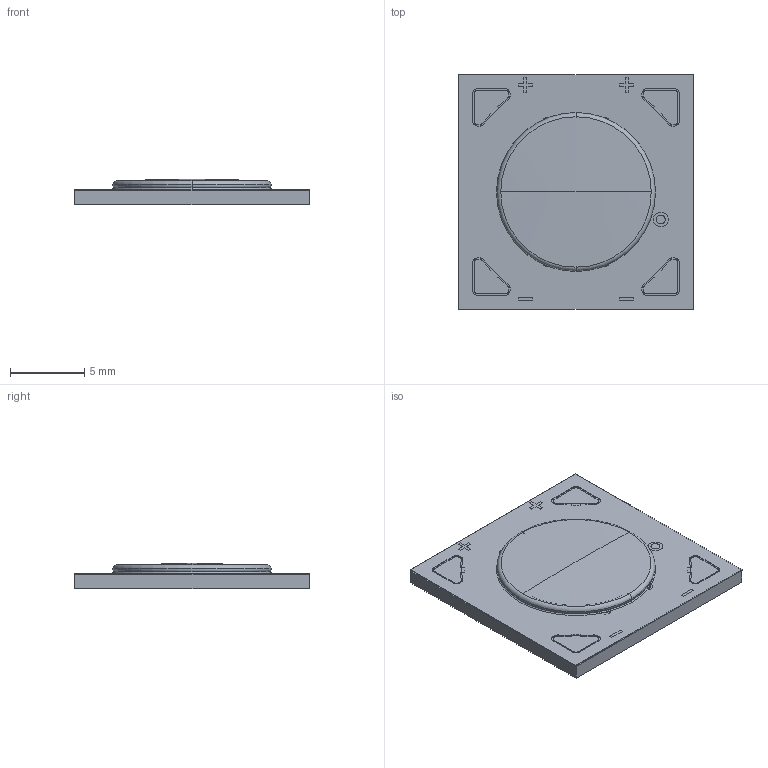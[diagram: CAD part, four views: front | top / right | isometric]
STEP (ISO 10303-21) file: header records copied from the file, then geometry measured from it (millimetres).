
FILE_DESCRIPTION (( 'STEP AP214' ), '1' );
FILE_NAME ('V10 BXRE.STEP', '2013-11-19T23:39:03', ( '' ), ( '' ), 'SwSTEP 2.0', 'SolidWorks 2013', '' );
FILE_SCHEMA (( 'AUTOMOTIVE_DESIGN' ));
Length unit declared in the file: millimetre
Products named in the file (6): V10 BXRE Ph; V10 BXRE RD; V10 BXRE SM; V10 BXRE Metal; V10 BXRE base_Round_Center; V10 BXRE
Assembly tree (5 placements, depth 2):
  V10 BXRE
    V10 BXRE base_Round_Center
    V10 BXRE Metal
    V10 BXRE SM
    V10 BXRE RD
    V10 BXRE Ph
Bounding box: 15.8 x 15.8 x 1.7 mm (x, y, z)
Volume: 306 mm3; surface area: 1187.9 mm2
Topology: 12 solids, 12 shells, 212 faces, 530 edges, 349 vertices
Faces by surface type: plane 110, cylinder 82, torus 18, sphere 2
Entity records: 7251 total; most frequent: DIRECTION 1178, CARTESIAN_POINT 1099, ORIENTED_EDGE 1060, EDGE_CURVE 530, AXIS2_PLACEMENT_3D 428, VERTEX_POINT 349, LINE 322, VECTOR 322
